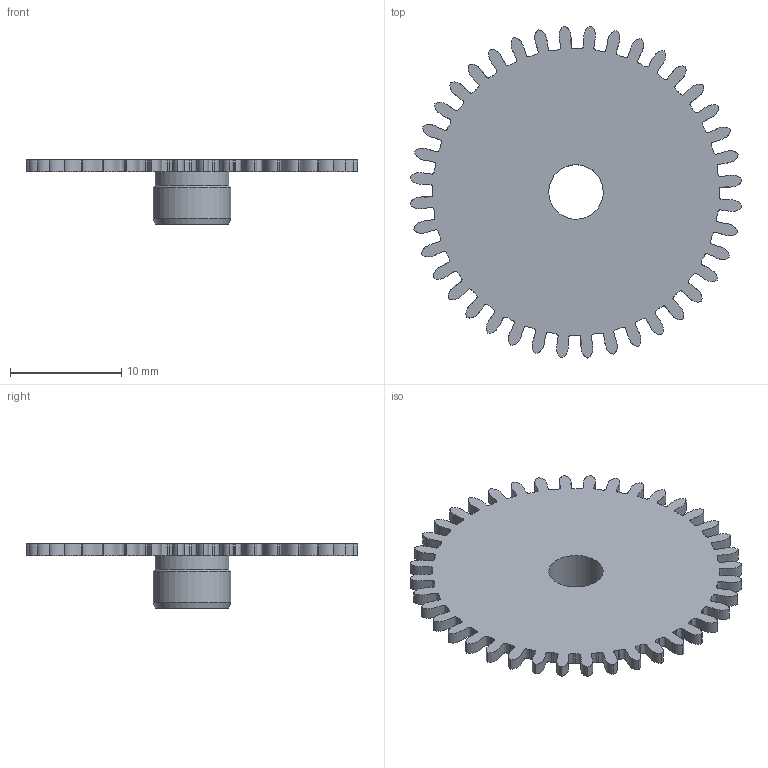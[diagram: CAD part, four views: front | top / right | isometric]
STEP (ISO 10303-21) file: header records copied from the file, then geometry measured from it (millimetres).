
FILE_DESCRIPTION(/* description */ (''),/* implementation_level */ '2;1');
FILE_NAME(/* name */ 'D:\Desktop\WatchCAdFiles\print2endTime\3.5\Solid3.stp',/* time_stamp */ '2019-05-02T16:57:34+02:00',/* author */ ('fkhad'),/* organization */ (''),/* preprocessor_version */ 'ST-DEVELOPER v17',/* originating_system */ 'Autodesk Inventor 2018',/* authorisation */ '');
FILE_SCHEMA (('AUTOMOTIVE_DESIGN { 1 0 10303 214 3 1 1 }'));
Length unit declared in the file: inch
Products named in the file (1): Solid3
Bounding box: 29.85 x 29.85 x 5.78 mm (x, y, z)
Volume: 692.3 mm3; surface area: 1578.5 mm2
Topology: 1 solids, 1 shells, 128 faces, 379 edges, 254 vertices
Faces by surface type: bspline 80, cylinder 43, plane 3, cone 2
Full cylindrical faces by diameter (mm): 4.9 x1, 6.65 x1, 7 x1
Entity records: 6229 total; most frequent: CARTESIAN_POINT 3082, ORIENTED_EDGE 758, DIRECTION 411, EDGE_CURVE 379, VERTEX_POINT 254, B_SPLINE_CURVE_WITH_KNOTS 160, AXIS2_PLACEMENT_3D 143, EDGE_LOOP 131
